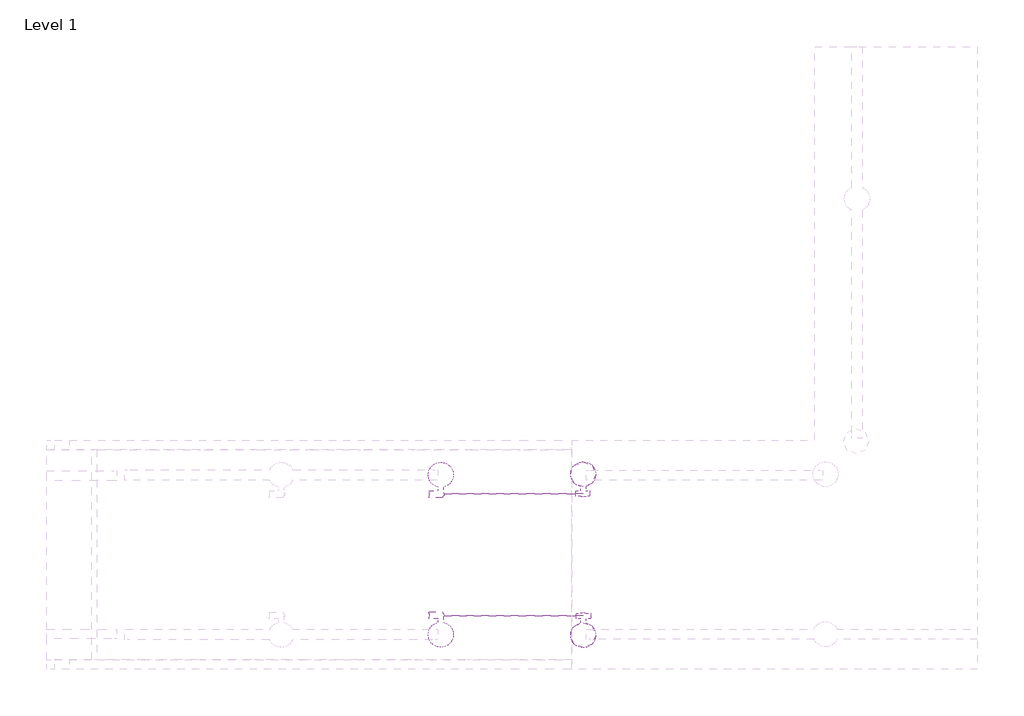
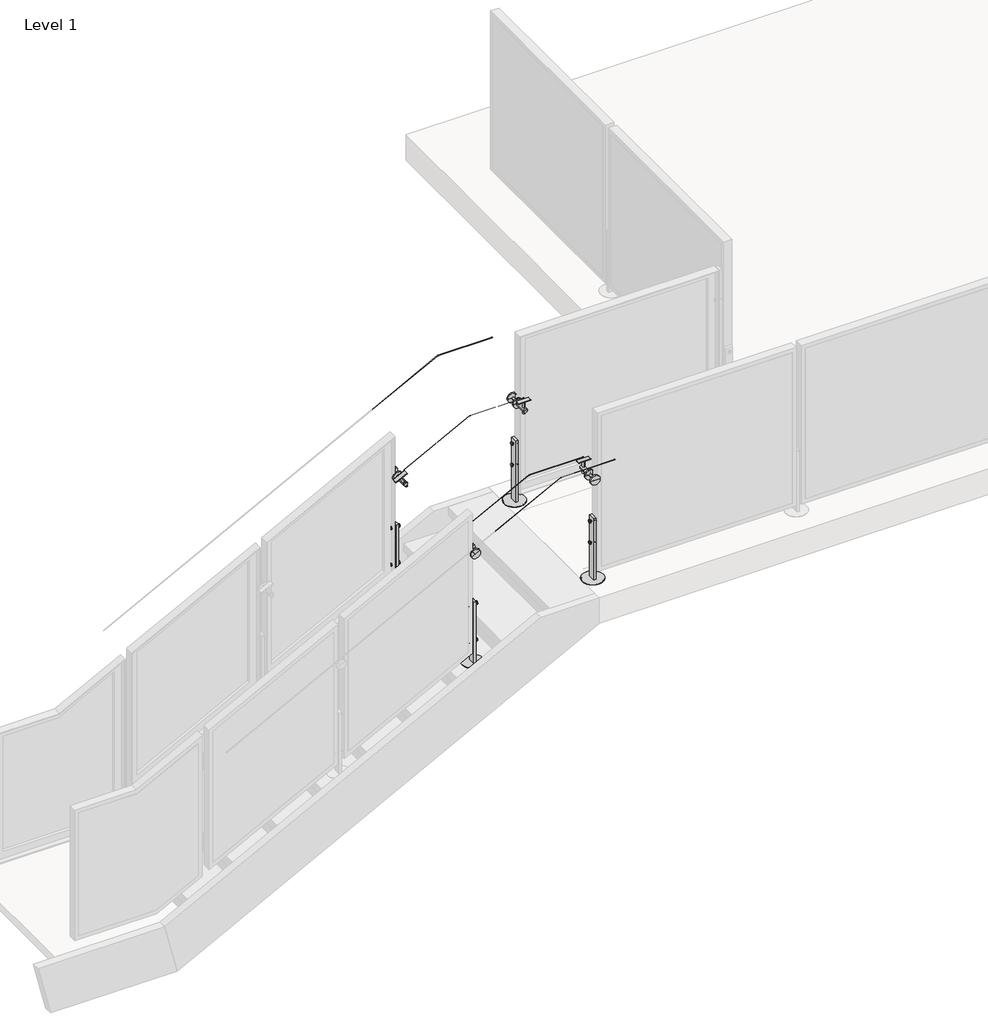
# One storey, part 34 of 37: 4 proxies, 2 railings.
"""IFC4 building model written with IfcOpenShell, lengths in millimetres."""

from ifc_helpers import new_model, si_unit, point, frame, frame_2d, origin, place, context, project, spatial, polyline, circle_curve, ellipse_curve, trimmed, segment, composite_curve, outline, extrude, transform, mapped, element, save
from ifc_brep_helpers import plane_surface, cylinder_surface, advanced_brep
from components import baluster_end_post_viva_frame_top_mount_933f940f, baluster_end_post_viva_frame_top_mount_stairs_5fb22de0

model = new_model("IFC4")

# Units and contexts
model_context = context("Model", 3, world=origin())
ifc_project = project(units=[si_unit("LENGTHUNIT", "METRE", prefix="MILLI")], contexts=[model_context])

# Site, building, storey
site = spatial("IfcSite", under=ifc_project)
building = spatial("IfcBuilding", under=site)
storey = spatial("IfcBuildingStorey", under=building, Name="Level 1", Elevation=0.0)

# Proxies
placement = place(None, origin())
baluster_end_post_viva_frame_top_mount_shape = baluster_end_post_viva_frame_top_mount_933f940f(model_context)
element("IfcBuildingElementProxy", 1, Name="Baluster-End-Post-VIVA-FRAME-Top Mount : CORED INTO CONCRETE_TOP MOUNT FOLD_STRAIGHT", ObjectType="Baluster-End-Post-VIVA-FRAME-Top Mount : CORED INTO CONCRETE_TOP MOUNT FOLD_STRAIGHT", at=placement, inside=storey, context=model_context, shape_type="MappedRepresentation", body=[
    mapped(baluster_end_post_viva_frame_top_mount_shape, transform((-7413.6813244, 8605.5937722, 3047.492), x_axis=(1.0, 0.0, 0.0), y_axis=(0.0, 1.0, 0.0), z_axis=(0.0, 0.0, 1.0))),
])
element("IfcBuildingElementProxy", 2, Name="Baluster-End-Post-VIVA-FRAME-Top Mount : CORED INTO CONCRETE_TOP MOUNT FOLD_STRAIGHT", ObjectType="Baluster-End-Post-VIVA-FRAME-Top Mount : CORED INTO CONCRETE_TOP MOUNT FOLD_STRAIGHT", at=placement, inside=storey, context=model_context, shape_type="MappedRepresentation", body=[
    mapped(baluster_end_post_viva_frame_top_mount_shape, transform((-7413.6813244, 9246.7937722, 3047.492), x_axis=(-1.0, 0.0, 0.0), y_axis=(0.0, -1.0, 0.0), z_axis=(0.0, 0.0, 1.0))),
])
baluster_end_post_viva_frame_top_mount_stairs_shape = baluster_end_post_viva_frame_top_mount_stairs_5fb22de0(model_context)
element("IfcBuildingElementProxy", 3, Name="Baluster-End-Post-VIVA-FRAME-Top Mount Stairs : CORED INTO CONCRETE_TOP MOUNT FRAME_STAIR", ObjectType="Baluster-End-Post-VIVA-FRAME-Top Mount Stairs : CORED INTO CONCRETE_TOP MOUNT FRAME_STAIR", at=placement, inside=storey, context=model_context, shape_type="MappedRepresentation", body=[
    mapped(baluster_end_post_viva_frame_top_mount_stairs_shape, transform((-7413.6813244, 8605.5937722, 3784.092), x_axis=(1.0, 0.0, 0.0), y_axis=(0.0, 1.0, 0.0), z_axis=(0.0, 0.0, 1.0))),
])
element("IfcBuildingElementProxy", 4, Name="Baluster-End-Post-VIVA-FRAME-Top Mount Stairs : CORED INTO CONCRETE_TOP MOUNT FRAME_STAIR", ObjectType="Baluster-End-Post-VIVA-FRAME-Top Mount Stairs : CORED INTO CONCRETE_TOP MOUNT FRAME_STAIR", at=placement, inside=storey, context=model_context, shape_type="MappedRepresentation", body=[
    mapped(baluster_end_post_viva_frame_top_mount_stairs_shape, transform((-7413.6813244, 9246.7913722, 3784.092), x_axis=(-1.0, 0.0, 0.0), y_axis=(0.0, -1.0, 0.0), z_axis=(0.0, 0.0, 1.0))),
])

# Railings
element("IfcRailing", 5, ObjectType="Metal-Panel-VIVA-FRAME-Top_Core-Stairs-Landing-Upper", at=placement, inside=storey, context=model_context, shape_type="SolidModel", body=[
    advanced_brep(
    [(-8159.4813244, 8605.3397722, 3573.1968892), (-8159.4813244, 8605.8477722, 3573.1968892), (-7753.0192861, 8605.3397722, 3784.346), (-7753.0192861, 8605.8477722, 3784.346), (-7413.6813244, 8605.3397722, 3784.346), (-7413.6813244, 8605.8477722, 3784.346)],
    [
        (0, 1, ellipse_curve(frame((-8159.4813244, 8605.5937722, 3573.1968892), z_axis=(-1.0, 0.0, 0.0), x_axis=(0.0, 0.0, -0.9999999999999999)), 0.2862277, 0.254)),
        (1, 0, ellipse_curve(frame((-8159.4813244, 8605.5937722, 3573.1968892), z_axis=(-1.0, 0.0, 0.0), x_axis=(0.0, 0.0, -0.9999999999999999)), 0.2862277, 0.254)),
        (0, 2),
        (2, 3, ellipse_curve(frame((-7753.0192861, 8605.5937722, 3784.346), z_axis=(-0.9714436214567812, 0.0, -0.2372705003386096), x_axis=(0.23727050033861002, 0.0, -0.9714436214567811)), 0.2614665, 0.254)),
        (3, 1),
        (3, 2, ellipse_curve(frame((-7753.0192861, 8605.5937722, 3784.346), z_axis=(-0.9714436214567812, 0.0, -0.2372705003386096), x_axis=(0.23727050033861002, 0.0, -0.9714436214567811)), 0.2614665, 0.254)),
        (4, 5, circle_curve(frame((-7413.6813244, 8605.5937722, 3784.346), z_axis=(1.0, 0.0, 0.0), x_axis=(0.0, 1.0, 0.0)), 0.254)),
        (5, 4, circle_curve(frame((-7413.6813244, 8605.5937722, 3784.346), z_axis=(1.0, 0.0, 0.0), x_axis=(0.0, 1.0, 0.0)), 0.254)),
        (2, 4),
        (5, 3),
    ],
    [
        plane_surface(frame((-8159.4813244, 8605.5937722, 3573.4831169), z_axis=(-1.0, 0.0, 0.0), x_axis=(0.0, 1.0, 0.0))),
        cylinder_surface(frame((-8159.364233, 8605.5937722, 3573.2577159), z_axis=(-0.8874054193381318, 0.0, -0.4609898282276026), x_axis=(0.0, 1.0, 0.0)), 0.254),
        plane_surface(frame((-7413.6813244, 8605.5937722, 3784.6), z_axis=(1.0, 0.0, 0.0), x_axis=(0.0, 1.0, 0.0))),
        cylinder_surface(frame((-7753.0813244, 8605.5937722, 3784.346), z_axis=(-1.0, 0.0, 0.0), x_axis=(0.0, 1.0, 0.0)), 0.254),
    ],
    [
        (0, [[1, 2]]),
        (1, [[-1, 3, 4, 5]]),
        (1, [[-2, -5, 6, -3]]),
        (2, [[7, 8]]),
        (3, [[-4, 9, -8, 10]]),
        (3, [[-6, -10, -7, -9]]),
    ],
),
    advanced_brep(
    [(-8159.4813244, 8263.5937722, 3763.4196766), (-8159.4813244, 8264.5937722, 3763.4196766), (-7752.9592018, 8263.5937722, 3974.6), (-7752.9592018, 8264.5937722, 3974.6), (-7413.6813244, 8263.5937722, 3974.6), (-7413.6813244, 8264.5937722, 3974.6)],
    [
        (0, 1, ellipse_curve(frame((-8159.4813244, 8264.0937722, 3763.4196766), z_axis=(-1.0, 0.0, 0.0), x_axis=(0.0, 0.0, -0.9999999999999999)), 0.5634403, 0.5)),
        (1, 0, ellipse_curve(frame((-8159.4813244, 8264.0937722, 3763.4196766), z_axis=(-1.0, 0.0, 0.0), x_axis=(0.0, 0.0, -0.9999999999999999)), 0.5634403, 0.5)),
        (0, 2),
        (2, 3, ellipse_curve(frame((-7752.9592018, 8264.0937722, 3974.6), z_axis=(-0.9714436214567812, 0.0, -0.2372705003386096), x_axis=(0.23727050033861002, 0.0, -0.9714436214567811)), 0.5146979, 0.5)),
        (3, 1),
        (3, 2, ellipse_curve(frame((-7752.9592018, 8264.0937722, 3974.6), z_axis=(-0.9714436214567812, 0.0, -0.2372705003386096), x_axis=(0.23727050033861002, 0.0, -0.9714436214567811)), 0.5146979, 0.5)),
        (4, 5, circle_curve(frame((-7413.6813244, 8264.0937722, 3974.6), z_axis=(1.0, 0.0, 0.0), x_axis=(0.0, 1.0, 0.0)), 0.5)),
        (5, 4, circle_curve(frame((-7413.6813244, 8264.0937722, 3974.6), z_axis=(1.0, 0.0, 0.0), x_axis=(0.0, 1.0, 0.0)), 0.5)),
        (2, 4),
        (5, 3),
    ],
    [
        plane_surface(frame((-8159.4813244, 8264.0937722, 3763.9831169), z_axis=(-1.0, 0.0, 0.0), x_axis=(0.0, 1.0, 0.0))),
        cylinder_surface(frame((-8159.2508295, 8264.0937722, 3763.5394142), z_axis=(-0.8874054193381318, 0.0, -0.4609898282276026), x_axis=(0.0, 1.0, 0.0)), 0.5),
        plane_surface(frame((-7413.6813244, 8264.0937722, 3975.1), z_axis=(1.0, 0.0, 0.0), x_axis=(0.0, 1.0, 0.0))),
        cylinder_surface(frame((-7753.0813244, 8264.0937722, 3974.6), z_axis=(-1.0, 0.0, 0.0), x_axis=(0.0, 1.0, 0.0)), 0.5),
    ],
    [
        (0, [[1, 2]]),
        (1, [[-1, 3, 4, 5]]),
        (1, [[-2, -5, 6, -3]]),
        (2, [[7, 8]]),
        (3, [[-4, 9, -8, 10]]),
        (3, [[-6, -10, -7, -9]]),
    ],
),
    extrude(outline(composite_curve([segment(polyline([(2.99974, 1e-07), (0.0, 0.0)]), True, "CONTINUOUS"), segment(trimmed(circle_curve(frame_2d((-19.0451471, 0.0)), 19.0451471), [point((0.0, 0.0))], [point((-23.6280664, 18.4855208))], True, "CARTESIAN"), True, "CONTINUOUS"), segment(polyline([(-23.6280664, 18.4855208), (-24.3499073, 21.397116)]), True, "CONTINUOUS"), segment(trimmed(circle_curve(frame_2d((-19.0451471, 0.0)), 22.0448871), [point((-24.3499073, 21.397116))], [point((2.99974, 1e-07))], False, "CARTESIAN"), True, "CONTINUOUS")], self_intersect=False)), frame((-8221.9690349, 8593.9719722, 3522.3349137), z_axis=(0.887405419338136, 0.0, 0.46098982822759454), x_axis=(0.284054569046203, -0.7876022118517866, -0.5468050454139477)), (0.0, 0.0, 1.0), 79.1184357),
    advanced_brep(
    [(-8147.0841468, 8608.9719722, 3463.9951499), (-8147.0841468, 8601.8282222, 3463.9951499), (-8147.0841468, 8616.1157222, 3463.9951499), (-8182.9433931, 8601.8282222, 3533.024199), (-8182.9433931, 8608.9719722, 3533.024199), (-8182.9433931, 8616.1157222, 3533.024199)],
    [
        (0, 1),
        (1, 2, circle_curve(frame((-8147.0841468, 8608.9719722, 3463.9951499), z_axis=(0.4609898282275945, 0.0, -0.887405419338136), x_axis=(0.0, 1.0, 0.0)), 7.14375)),
        (2, 0),
        (3, 4),
        (4, 5),
        (5, 3, circle_curve(frame((-8182.9433931, 8608.9719722, 3533.024199), z_axis=(-0.4609898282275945, 0.0, 0.887405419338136), x_axis=(0.0, 1.0, 0.0)), 7.14375)),
        (2, 1, circle_curve(frame((-8147.0841468, 8608.9719722, 3463.9951499), z_axis=(0.4609898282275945, 0.0, -0.887405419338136), x_axis=(0.0, 1.0, 0.0)), 7.14375)),
        (3, 5, circle_curve(frame((-8182.9433931, 8608.9719722, 3533.024199), z_axis=(-0.4609898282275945, 0.0, 0.887405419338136), x_axis=(0.0, 1.0, 0.0)), 7.14375)),
        (1, 3),
        (5, 2),
    ],
    [
        plane_surface(frame((-8147.0841468, 8608.9719722, 3463.9951499), z_axis=(0.4609898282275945, 0.0, -0.887405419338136), x_axis=(0.0, 1.0, 0.0))),
        plane_surface(frame((-8182.9433931, 8608.9719722, 3533.024199), z_axis=(-0.4609898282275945, 0.0, 0.887405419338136), x_axis=(0.0, 1.0, 0.0))),
        cylinder_surface(frame((-8030.1299469, 8608.9719722, 3238.8583152), z_axis=(0.4609898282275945, 0.0, -0.887405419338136), x_axis=(0.0, 1.0, 0.0)), 7.14375),
    ],
    [
        (0, [[1, 2, 3]]),
        (1, [[4, 5, 6]]),
        (0, [[-3, 7, -1]]),
        (1, [[-5, -4, 8]]),
        (2, [[9, -6, 10, -2]]),
        (2, [[-10, -8, -9, -7]]),
    ],
),
    advanced_brep(
    [(-8186.2476904, 8481.9719722, 3473.9551112), (-8165.1163488, 8481.9719722, 3484.9324315), (-8153.8463, 8481.9719722, 3490.7870023), (-8132.7149585, 8481.9719722, 3501.7643226), (-8186.2476904, 8474.0344722, 3473.9551112), (-8132.7149585, 8474.0344722, 3501.7643226), (-8186.2476904, 8540.7094722, 3473.9551112), (-8170.7513733, 8540.7094722, 3482.0051461), (-8148.2112756, 8540.7094722, 3493.7142877), (-8132.7149585, 8540.7094722, 3501.7643226), (-8186.2476904, 8532.7719722, 3473.9551112), (-8132.7149585, 8532.7719722, 3501.7643226), (-8159.4813244, 8474.0344722, 3487.8597169), (-8170.7513733, 8620.0844722, 3482.0051461), (-8159.4813244, 8620.0844722, 3487.8597169), (-8148.2112756, 8620.0844722, 3493.7142877), (-8165.1163488, 8532.7719722, 3484.9324315), (-8153.8463, 8532.7719722, 3490.7870023)],
    [
        (0, 1),
        (1, 2, circle_curve(frame((-8159.4813244, 8481.9719722, 3487.8597169), z_axis=(0.0, -1.0, 0.0), x_axis=(0.8874054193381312, 0.0, 0.4609898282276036)), 6.35)),
        (2, 3),
        (3, 0, circle_curve(frame((-8159.4813244, 8481.9719722, 3487.8597169), z_axis=(0.0, 1.0, 0.0), x_axis=(0.8874054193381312, 0.0, 0.4609898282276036)), 30.1625)),
        (4, 0),
        (3, 5),
        (5, 4, circle_curve(frame((-8159.4813244, 8474.0344722, 3487.8597169), z_axis=(0.0, 1.0, 0.0), x_axis=(0.8874054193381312, 0.0, 0.4609898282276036)), 30.1625)),
        (6, 7),
        (7, 8, circle_curve(frame((-8159.4813244, 8540.7094722, 3487.8597169), z_axis=(0.0, -1.0, 0.0), x_axis=(0.8874054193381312, 0.0, 0.4609898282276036)), 12.7)),
        (8, 9),
        (9, 6, circle_curve(frame((-8159.4813244, 8540.7094722, 3487.8597169), z_axis=(0.0, 1.0, 0.0), x_axis=(0.8874054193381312, 0.0, 0.4609898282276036)), 30.1625)),
        (10, 6),
        (9, 11),
        (11, 10, circle_curve(frame((-8159.4813244, 8532.7719722, 3487.8597169), z_axis=(0.0, 1.0, 0.0), x_axis=(0.8874054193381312, 0.0, 0.4609898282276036)), 30.1625)),
        (3, 0, circle_curve(frame((-8159.4813244, 8481.9719722, 3487.8597169), z_axis=(0.0, -1.0, 0.0), x_axis=(0.8874054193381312, 0.0, 0.4609898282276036)), 30.1625)),
        (4, 5, circle_curve(frame((-8159.4813244, 8474.0344722, 3487.8597169), z_axis=(0.0, 1.0, 0.0), x_axis=(0.8874054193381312, 0.0, 0.4609898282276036)), 30.1625)),
        (12, 4),
        (5, 12),
        (13, 14),
        (14, 15),
        (15, 13, circle_curve(frame((-8159.4813244, 8620.0844722, 3487.8597169), z_axis=(0.0, 1.0, 0.0), x_axis=(0.8874054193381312, 0.0, 0.4609898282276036)), 12.7)),
        (13, 15, circle_curve(frame((-8159.4813244, 8620.0844722, 3487.8597169), z_axis=(0.0, 1.0, 0.0), x_axis=(0.8874054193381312, 0.0, 0.4609898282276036)), 12.7)),
        (7, 13),
        (15, 8),
        (7, 8, circle_curve(frame((-8159.4813244, 8540.7094722, 3487.8597169), z_axis=(0.0, 1.0, 0.0), x_axis=(0.8874054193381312, 0.0, 0.4609898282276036)), 12.7)),
        (6, 9, circle_curve(frame((-8159.4813244, 8540.7094722, 3487.8597169), z_axis=(0.0, 1.0, 0.0), x_axis=(0.8874054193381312, 0.0, 0.4609898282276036)), 30.1625)),
        (10, 11, circle_curve(frame((-8159.4813244, 8532.7719722, 3487.8597169), z_axis=(0.0, 1.0, 0.0), x_axis=(0.8874054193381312, 0.0, 0.4609898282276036)), 30.1625)),
        (16, 10),
        (11, 17),
        (17, 16, circle_curve(frame((-8159.4813244, 8532.7719722, 3487.8597169), z_axis=(0.0, 1.0, 0.0), x_axis=(0.8874054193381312, 0.0, 0.4609898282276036)), 6.35)),
        (16, 17, circle_curve(frame((-8159.4813244, 8532.7719722, 3487.8597169), z_axis=(0.0, 1.0, 0.0), x_axis=(0.8874054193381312, 0.0, 0.4609898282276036)), 6.35)),
        (1, 16),
        (17, 2),
        (1, 2, circle_curve(frame((-8159.4813244, 8481.9719722, 3487.8597169), z_axis=(0.0, 1.0, 0.0), x_axis=(0.8874054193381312, 0.0, 0.4609898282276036)), 6.35)),
    ],
    [
        plane_surface(frame((-8159.4813244, 8481.9719722, 3487.8597169), z_axis=(0.0, 1.0, 0.0), x_axis=(0.8874054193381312, 0.0, 0.4609898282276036))),
        cylinder_surface(frame((-8159.4813244, 7008.7719722, 3487.8597169), z_axis=(0.0, -1.0, 0.0), x_axis=(0.8874054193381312, 0.0, 0.4609898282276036)), 30.1625),
        plane_surface(frame((-8159.4813244, 8540.7094722, 3487.8597169), z_axis=(0.0, 1.0, 0.0), x_axis=(0.8874054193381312, 0.0, 0.4609898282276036))),
        plane_surface(frame((-8159.4813244, 8474.0344722, 3487.8597169), z_axis=(0.0, -1.0, 0.0), x_axis=(0.8874054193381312, 0.0, 0.4609898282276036))),
        plane_surface(frame((-8159.4813244, 8620.0844722, 3487.8597169), z_axis=(0.0, 1.0, 0.0), x_axis=(0.8874054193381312, 0.0, 0.4609898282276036))),
        cylinder_surface(frame((-8159.4813244, 7008.7719722, 3487.8597169), z_axis=(0.0, -1.0, 0.0), x_axis=(0.8874054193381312, 0.0, 0.4609898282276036)), 12.7),
        plane_surface(frame((-8159.4813244, 8532.7719722, 3487.8597169), z_axis=(0.0, -1.0, 0.0), x_axis=(0.8874054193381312, 0.0, 0.4609898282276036))),
        cylinder_surface(frame((-8159.4813244, 7008.7719722, 3487.8597169), z_axis=(0.0, -1.0, 0.0), x_axis=(0.8874054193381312, 0.0, 0.4609898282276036)), 6.35),
    ],
    [
        (0, [[1, 2, 3, 4]]),
        (1, [[5, -4, 6, 7]]),
        (2, [[8, 9, 10, 11]]),
        (1, [[12, -11, 13, 14]]),
        (1, [[-6, 15, -5, 16]]),
        (3, [[17, -7, 18]]),
        (3, [[-18, -16, -17]]),
        (4, [[19, 20, 21]]),
        (4, [[-20, -19, 22]]),
        (5, [[23, -21, 24, -9]]),
        (5, [[-24, -22, -23, 25]]),
        (2, [[-10, -25, -8, 26]]),
        (1, [[-13, -26, -12, 27]]),
        (6, [[28, -14, 29, 30]]),
        (6, [[-29, -27, -28, 31]]),
        (7, [[32, -30, 33, -2]]),
        (7, [[-33, -31, -32, 34]]),
        (0, [[-3, -34, -1, -15]]),
    ],
),
    extrude(outline(composite_curve([segment(trimmed(circle_curve(frame_2d((-8159.4813244, 8507.3719722)), 65.8876), [point((-8159.4813244, 8441.4843722))], [point((-8159.4813244, 8573.2595722))], False, "CARTESIAN"), True, "CONTINUOUS"), segment(trimmed(circle_curve(frame_2d((-8159.4813244, 8507.3719722)), 65.8876), [point((-8159.4813244, 8573.2595722))], [point((-8159.4813244, 8441.4843722))], False, "CARTESIAN"), True, "CONTINUOUS")], self_intersect=False)), frame((0.0, 0.0, 2757.7142857), z_axis=(0.0, 0.0, 1.0), x_axis=(1.0, 0.0, 0.0)), (0.0, 0.0, 1.0), 2.9821299),
    advanced_brep(
    [(-8185.6687244, 8507.3719722, 2887.8638857), (-8185.6687244, 8507.3719722, 2906.9646857), (-8185.6687244, 8507.3719722, 2897.4142857), (-8180.8935244, 8507.3719722, 2887.8638857), (-8180.8935244, 8507.3719722, 2906.9646857), (-8180.8935244, 8507.3719722, 2892.6390857), (-8180.8935244, 8507.3719722, 2902.1894857), (-8138.0691244, 8507.3719722, 2892.6390857), (-8138.0691244, 8507.3719722, 2902.1894857), (-8138.0691244, 8507.3719722, 2887.8638857), (-8138.0691244, 8507.3719722, 2906.9646857), (-8133.2939244, 8507.3719722, 2887.8638857), (-8133.2939244, 8507.3719722, 2906.9646857), (-8133.2939244, 8507.3719722, 2897.4142857)],
    [
        (0, 1, circle_curve(frame((-8185.6687244, 8507.3719722, 2897.4142857), z_axis=(-1.0, 0.0, 0.0), x_axis=(0.0, 0.0, 1.0)), 9.5504)),
        (1, 2),
        (2, 0),
        (1, 0, circle_curve(frame((-8185.6687244, 8507.3719722, 2897.4142857), z_axis=(-1.0, 0.0, 0.0), x_axis=(0.0, 0.0, 1.0)), 9.5504)),
        (3, 4, circle_curve(frame((-8180.8935244, 8507.3719722, 2897.4142857), z_axis=(-1.0, 0.0, 0.0), x_axis=(0.0, 0.0, 1.0)), 9.5504)),
        (4, 1),
        (0, 3),
        (4, 3, circle_curve(frame((-8180.8935244, 8507.3719722, 2897.4142857), z_axis=(-1.0, 0.0, 0.0), x_axis=(0.0, 0.0, 1.0)), 9.5504)),
        (5, 6, circle_curve(frame((-8180.8935244, 8507.3719722, 2897.4142857), z_axis=(-1.0, 0.0, 0.0), x_axis=(0.0, 0.0, 1.0)), 4.7752)),
        (6, 4),
        (3, 5),
        (6, 5, circle_curve(frame((-8180.8935244, 8507.3719722, 2897.4142857), z_axis=(-1.0, 0.0, 0.0), x_axis=(0.0, 0.0, 1.0)), 4.7752)),
        (7, 8, circle_curve(frame((-8138.0691244, 8507.3719722, 2897.4142857), z_axis=(-1.0, 0.0, 0.0), x_axis=(0.0, 0.0, 1.0)), 4.7752)),
        (8, 6),
        (5, 7),
        (8, 7, circle_curve(frame((-8138.0691244, 8507.3719722, 2897.4142857), z_axis=(-1.0, 0.0, 0.0), x_axis=(0.0, 0.0, 1.0)), 4.7752)),
        (9, 10, circle_curve(frame((-8138.0691244, 8507.3719722, 2897.4142857), z_axis=(-1.0, 0.0, 0.0), x_axis=(0.0, 0.0, 1.0)), 9.5504)),
        (10, 8),
        (7, 9),
        (10, 9, circle_curve(frame((-8138.0691244, 8507.3719722, 2897.4142857), z_axis=(-1.0, 0.0, 0.0), x_axis=(0.0, 0.0, 1.0)), 9.5504)),
        (11, 12, circle_curve(frame((-8133.2939244, 8507.3719722, 2897.4142857), z_axis=(-1.0, 0.0, 0.0), x_axis=(0.0, 0.0, 1.0)), 9.5504)),
        (12, 10),
        (9, 11),
        (12, 11, circle_curve(frame((-8133.2939244, 8507.3719722, 2897.4142857), z_axis=(-1.0, 0.0, 0.0), x_axis=(0.0, 0.0, 1.0)), 9.5504)),
        (13, 12),
        (11, 13),
    ],
    [
        plane_surface(frame((-8185.6687244, 8507.3719722, 2897.4142857), z_axis=(-1.0, 0.0, 0.0), x_axis=(0.0, 0.0, 1.0))),
        cylinder_surface(frame((-11577.2490816, 8507.3719722, 2897.4142857), z_axis=(1.0, 0.0, 0.0), x_axis=(0.0, 0.0, 1.0)), 9.5504),
        plane_surface(frame((-8180.8935244, 8507.3719722, 2897.4142857), z_axis=(1.0, 0.0, 0.0), x_axis=(0.0, 0.0, 1.0))),
        cylinder_surface(frame((-11577.2490816, 8507.3719722, 2897.4142857), z_axis=(1.0, 0.0, 0.0), x_axis=(0.0, 0.0, 1.0)), 4.7752),
        plane_surface(frame((-8138.0691244, 8507.3719722, 2897.4142857), z_axis=(-1.0, 0.0, 0.0), x_axis=(0.0, 0.0, 1.0))),
        plane_surface(frame((-8133.2939244, 8507.3719722, 2897.4142857), z_axis=(1.0, 0.0, 0.0), x_axis=(0.0, 0.0, 1.0))),
    ],
    [
        (0, [[1, 2, 3]]),
        (0, [[4, -3, -2]]),
        (1, [[5, 6, -1, 7]]),
        (1, [[8, -7, -4, -6]]),
        (2, [[9, 10, -5, 11]]),
        (2, [[12, -11, -8, -10]]),
        (3, [[13, 14, -9, 15]]),
        (3, [[16, -15, -12, -14]]),
        (4, [[17, 18, -13, 19]]),
        (4, [[20, -19, -16, -18]]),
        (1, [[21, 22, -17, 23]]),
        (1, [[24, -23, -20, -22]]),
        (5, [[25, -21, 26]]),
        (5, [[-26, -24, -25]]),
    ],
),
    advanced_brep(
    [(-8185.6687244, 8507.3719722, 3129.1638857), (-8185.6687244, 8507.3719722, 3148.2646857), (-8185.6687244, 8507.3719722, 3138.7142857), (-8180.8935244, 8507.3719722, 3129.1638857), (-8180.8935244, 8507.3719722, 3148.2646857), (-8180.8935244, 8507.3719722, 3133.9390857), (-8180.8935244, 8507.3719722, 3143.4894857), (-8138.0691244, 8507.3719722, 3133.9390857), (-8138.0691244, 8507.3719722, 3143.4894857), (-8138.0691244, 8507.3719722, 3129.1638857), (-8138.0691244, 8507.3719722, 3148.2646857), (-8133.2939244, 8507.3719722, 3129.1638857), (-8133.2939244, 8507.3719722, 3148.2646857), (-8133.2939244, 8507.3719722, 3138.7142857)],
    [
        (0, 1, circle_curve(frame((-8185.6687244, 8507.3719722, 3138.7142857), z_axis=(-1.0, 0.0, 0.0), x_axis=(0.0, 0.0, 1.0)), 9.5504)),
        (1, 2),
        (2, 0),
        (1, 0, circle_curve(frame((-8185.6687244, 8507.3719722, 3138.7142857), z_axis=(-1.0, 0.0, 0.0), x_axis=(0.0, 0.0, 1.0)), 9.5504)),
        (3, 4, circle_curve(frame((-8180.8935244, 8507.3719722, 3138.7142857), z_axis=(-1.0, 0.0, 0.0), x_axis=(0.0, 0.0, 1.0)), 9.5504)),
        (4, 1),
        (0, 3),
        (4, 3, circle_curve(frame((-8180.8935244, 8507.3719722, 3138.7142857), z_axis=(-1.0, 0.0, 0.0), x_axis=(0.0, 0.0, 1.0)), 9.5504)),
        (5, 6, circle_curve(frame((-8180.8935244, 8507.3719722, 3138.7142857), z_axis=(-1.0, 0.0, 0.0), x_axis=(0.0, 0.0, 1.0)), 4.7752)),
        (6, 4),
        (3, 5),
        (6, 5, circle_curve(frame((-8180.8935244, 8507.3719722, 3138.7142857), z_axis=(-1.0, 0.0, 0.0), x_axis=(0.0, 0.0, 1.0)), 4.7752)),
        (7, 8, circle_curve(frame((-8138.0691244, 8507.3719722, 3138.7142857), z_axis=(-1.0, 0.0, 0.0), x_axis=(0.0, 0.0, 1.0)), 4.7752)),
        (8, 6),
        (5, 7),
        (8, 7, circle_curve(frame((-8138.0691244, 8507.3719722, 3138.7142857), z_axis=(-1.0, 0.0, 0.0), x_axis=(0.0, 0.0, 1.0)), 4.7752)),
        (9, 10, circle_curve(frame((-8138.0691244, 8507.3719722, 3138.7142857), z_axis=(-1.0, 0.0, 0.0), x_axis=(0.0, 0.0, 1.0)), 9.5504)),
        (10, 8),
        (7, 9),
        (10, 9, circle_curve(frame((-8138.0691244, 8507.3719722, 3138.7142857), z_axis=(-1.0, 0.0, 0.0), x_axis=(0.0, 0.0, 1.0)), 9.5504)),
        (11, 12, circle_curve(frame((-8133.2939244, 8507.3719722, 3138.7142857), z_axis=(-1.0, 0.0, 0.0), x_axis=(0.0, 0.0, 1.0)), 9.5504)),
        (12, 10),
        (9, 11),
        (12, 11, circle_curve(frame((-8133.2939244, 8507.3719722, 3138.7142857), z_axis=(-1.0, 0.0, 0.0), x_axis=(0.0, 0.0, 1.0)), 9.5504)),
        (13, 12),
        (11, 13),
    ],
    [
        plane_surface(frame((-8185.6687244, 8507.3719722, 3138.7142857), z_axis=(-1.0, 0.0, 0.0), x_axis=(0.0, 0.0, 1.0))),
        cylinder_surface(frame((-11577.2490816, 8507.3719722, 3138.7142857), z_axis=(1.0, 0.0, 0.0), x_axis=(0.0, 0.0, 1.0)), 9.5504),
        plane_surface(frame((-8180.8935244, 8507.3719722, 3138.7142857), z_axis=(1.0, 0.0, 0.0), x_axis=(0.0, 0.0, 1.0))),
        cylinder_surface(frame((-11577.2490816, 8507.3719722, 3138.7142857), z_axis=(1.0, 0.0, 0.0), x_axis=(0.0, 0.0, 1.0)), 4.7752),
        plane_surface(frame((-8138.0691244, 8507.3719722, 3138.7142857), z_axis=(-1.0, 0.0, 0.0), x_axis=(0.0, 0.0, 1.0))),
        plane_surface(frame((-8133.2939244, 8507.3719722, 3138.7142857), z_axis=(1.0, 0.0, 0.0), x_axis=(0.0, 0.0, 1.0))),
    ],
    [
        (0, [[1, 2, 3]]),
        (0, [[4, -3, -2]]),
        (1, [[5, 6, -1, 7]]),
        (1, [[8, -7, -4, -6]]),
        (2, [[9, 10, -5, 11]]),
        (2, [[12, -11, -8, -10]]),
        (3, [[13, 14, -9, 15]]),
        (3, [[16, -15, -12, -14]]),
        (4, [[17, 18, -13, 19]]),
        (4, [[20, -19, -16, -18]]),
        (1, [[21, 22, -17, 23]]),
        (1, [[24, -23, -20, -22]]),
        (5, [[25, -21, 26]]),
        (5, [[-26, -24, -25]]),
    ],
),
    extrude(outline(polyline([(-8167.4209161, 8529.5969722), (-8151.5417328, 8529.5969722), (-8151.5417328, 8485.1469722), (-8167.4209161, 8485.1469722), (-8167.4209161, 8529.5969722)])), frame((0.0, 0.0, 2656.1142857), z_axis=(0.0, 0.0, 1.0), x_axis=(1.0, 0.0, 0.0)), (0.0, 0.0, 1.0), 508.0),
])
element("IfcRailing", 6, ObjectType="Metal-Panel-VIVA-FRAME-Top_Core-Stairs-Landing-Upper", at=placement, inside=storey, context=model_context, shape_type="SolidModel", body=[
    advanced_brep(
    [(-8159.4813244, 9246.5373722, 3573.1968892), (-8159.4813244, 9247.0453722, 3573.1968892), (-7753.0192861, 9246.5373722, 3784.346), (-7753.0192861, 9247.0453722, 3784.346), (-7413.6813244, 9246.5373722, 3784.346), (-7413.6813244, 9247.0453722, 3784.346)],
    [
        (0, 1, ellipse_curve(frame((-8159.4813244, 9246.7913722, 3573.1968892), z_axis=(-1.0, 0.0, 0.0), x_axis=(0.0, 0.0, -0.9999999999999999)), 0.2862277, 0.254)),
        (1, 0, ellipse_curve(frame((-8159.4813244, 9246.7913722, 3573.1968892), z_axis=(-1.0, 0.0, 0.0), x_axis=(0.0, 0.0, -0.9999999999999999)), 0.2862277, 0.254)),
        (0, 2),
        (2, 3, ellipse_curve(frame((-7753.0192861, 9246.7913722, 3784.346), z_axis=(-0.9714436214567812, 0.0, -0.2372705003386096), x_axis=(0.23727050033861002, 0.0, -0.9714436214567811)), 0.2614665, 0.254)),
        (3, 1),
        (3, 2, ellipse_curve(frame((-7753.0192861, 9246.7913722, 3784.346), z_axis=(-0.9714436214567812, 0.0, -0.2372705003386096), x_axis=(0.23727050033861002, 0.0, -0.9714436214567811)), 0.2614665, 0.254)),
        (4, 5, circle_curve(frame((-7413.6813244, 9246.7913722, 3784.346), z_axis=(1.0, 0.0, 0.0), x_axis=(0.0, 1.0, 0.0)), 0.254)),
        (5, 4, circle_curve(frame((-7413.6813244, 9246.7913722, 3784.346), z_axis=(1.0, 0.0, 0.0), x_axis=(0.0, 1.0, 0.0)), 0.254)),
        (2, 4),
        (5, 3),
    ],
    [
        plane_surface(frame((-8159.4813244, 9246.7913722, 3573.4831169), z_axis=(-1.0, 0.0, 0.0), x_axis=(0.0, 1.0, 0.0))),
        cylinder_surface(frame((-8159.364233, 9246.7913722, 3573.2577159), z_axis=(-0.8874054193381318, 0.0, -0.4609898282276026), x_axis=(0.0, 1.0, 0.0)), 0.254),
        plane_surface(frame((-7413.6813244, 9246.7913722, 3784.6), z_axis=(1.0, 0.0, 0.0), x_axis=(0.0, 1.0, 0.0))),
        cylinder_surface(frame((-7753.0813244, 9246.7913722, 3784.346), z_axis=(-1.0, 0.0, 0.0), x_axis=(0.0, 1.0, 0.0)), 0.254),
    ],
    [
        (0, [[1, 2]]),
        (1, [[-1, 3, 4, 5]]),
        (1, [[-2, -5, 6, -3]]),
        (2, [[7, 8]]),
        (3, [[-4, 9, -8, 10]]),
        (3, [[-6, -10, -7, -9]]),
    ],
),
    advanced_brep(
    [(-8159.4813244, 9587.7913722, 3763.4196766), (-8159.4813244, 9588.7913722, 3763.4196766), (-7752.9592018, 9587.7913722, 3974.6), (-7752.9592018, 9588.7913722, 3974.6), (-7413.6813244, 9587.7913722, 3974.6), (-7413.6813244, 9588.7913722, 3974.6)],
    [
        (0, 1, ellipse_curve(frame((-8159.4813244, 9588.2913722, 3763.4196766), z_axis=(-1.0, 0.0, 0.0), x_axis=(0.0, 0.0, -0.9999999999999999)), 0.5634403, 0.5)),
        (1, 0, ellipse_curve(frame((-8159.4813244, 9588.2913722, 3763.4196766), z_axis=(-1.0, 0.0, 0.0), x_axis=(0.0, 0.0, -0.9999999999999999)), 0.5634403, 0.5)),
        (0, 2),
        (2, 3, ellipse_curve(frame((-7752.9592018, 9588.2913722, 3974.6), z_axis=(-0.9714436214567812, 0.0, -0.2372705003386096), x_axis=(0.23727050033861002, 0.0, -0.9714436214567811)), 0.5146979, 0.5)),
        (3, 1),
        (3, 2, ellipse_curve(frame((-7752.9592018, 9588.2913722, 3974.6), z_axis=(-0.9714436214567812, 0.0, -0.2372705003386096), x_axis=(0.23727050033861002, 0.0, -0.9714436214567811)), 0.5146979, 0.5)),
        (4, 5, circle_curve(frame((-7413.6813244, 9588.2913722, 3974.6), z_axis=(1.0, 0.0, 0.0), x_axis=(0.0, 1.0, 0.0)), 0.5)),
        (5, 4, circle_curve(frame((-7413.6813244, 9588.2913722, 3974.6), z_axis=(1.0, 0.0, 0.0), x_axis=(0.0, 1.0, 0.0)), 0.5)),
        (2, 4),
        (5, 3),
    ],
    [
        plane_surface(frame((-8159.4813244, 9588.2913722, 3763.9831169), z_axis=(-1.0, 0.0, 0.0), x_axis=(0.0, 1.0, 0.0))),
        cylinder_surface(frame((-8159.2508295, 9588.2913722, 3763.5394142), z_axis=(-0.8874054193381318, 0.0, -0.4609898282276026), x_axis=(0.0, 1.0, 0.0)), 0.5),
        plane_surface(frame((-7413.6813244, 9588.2913722, 3975.1), z_axis=(1.0, 0.0, 0.0), x_axis=(0.0, 1.0, 0.0))),
        cylinder_surface(frame((-7753.0813244, 9588.2913722, 3974.6), z_axis=(-1.0, 0.0, 0.0), x_axis=(0.0, 1.0, 0.0)), 0.5),
    ],
    [
        (0, [[1, 2]]),
        (1, [[-1, 3, 4, 5]]),
        (1, [[-2, -5, 6, -3]]),
        (2, [[7, 8]]),
        (3, [[-4, 9, -8, 10]]),
        (3, [[-6, -10, -7, -9]]),
    ],
),
    extrude(outline(composite_curve([segment(trimmed(circle_curve(frame_2d((-19.0451471, 0.0)), 22.0448871), [point((2.9997401, 0.0))], [point((-24.3499072, -21.3971159))], False, "CARTESIAN"), True, "CONTINUOUS"), segment(polyline([(-24.3499072, -21.3971159), (-23.6280664, -18.4855208)]), True, "CONTINUOUS"), segment(trimmed(circle_curve(frame_2d((-19.0451471, 0.0)), 19.0451471), [point((-23.6280664, -18.4855208))], [point((0.0, 0.0))], True, "CARTESIAN"), True, "CONTINUOUS"), segment(polyline([(0.0, 0.0), (2.9997401, 0.0)]), True, "CONTINUOUS")], self_intersect=False)), frame((-8221.9690349, 9258.4131722, 3522.3349137), z_axis=(0.887405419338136, 0.0, 0.46098982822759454), x_axis=(0.2840545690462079, 0.7876022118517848, -0.5468050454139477)), (0.0, 0.0, 1.0), 79.1184357),
    advanced_brep(
    [(-8147.0841468, 9243.4131722, 3463.9951499), (-8147.0841468, 9236.2694222, 3463.9951499), (-8147.0841468, 9250.5569222, 3463.9951499), (-8182.9433931, 9250.5569222, 3533.024199), (-8182.9433931, 9236.2694222, 3533.024199), (-8182.9433931, 9243.4131722, 3533.024199)],
    [
        (0, 1),
        (1, 2, circle_curve(frame((-8147.0841468, 9243.4131722, 3463.9951499), z_axis=(0.4609898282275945, 0.0, -0.887405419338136), x_axis=(0.0, -1.0, 0.0)), 7.14375)),
        (2, 0),
        (3, 4, circle_curve(frame((-8182.9433931, 9243.4131722, 3533.024199), z_axis=(-0.4609898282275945, 0.0, 0.887405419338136), x_axis=(0.0, -1.0, 0.0)), 7.14375)),
        (4, 5),
        (5, 3),
        (2, 1, circle_curve(frame((-8147.0841468, 9243.4131722, 3463.9951499), z_axis=(0.4609898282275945, 0.0, -0.887405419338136), x_axis=(0.0, -1.0, 0.0)), 7.14375)),
        (4, 3, circle_curve(frame((-8182.9433931, 9243.4131722, 3533.024199), z_axis=(-0.4609898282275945, 0.0, 0.887405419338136), x_axis=(0.0, -1.0, 0.0)), 7.14375)),
        (1, 4),
        (3, 2),
    ],
    [
        plane_surface(frame((-8147.0841468, 9243.4131722, 3463.9951499), z_axis=(0.4609898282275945, 0.0, -0.887405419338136), x_axis=(0.0, -1.0, 0.0))),
        plane_surface(frame((-8182.9433931, 9243.4131722, 3533.024199), z_axis=(-0.4609898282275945, 0.0, 0.887405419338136), x_axis=(0.0, -1.0, 0.0))),
        cylinder_surface(frame((-8030.1299469, 9243.4131722, 3238.8583152), z_axis=(0.4609898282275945, 0.0, -0.887405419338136), x_axis=(0.0, -1.0, 0.0)), 7.14375),
    ],
    [
        (0, [[1, 2, 3]]),
        (1, [[4, 5, 6]]),
        (0, [[-3, 7, -1]]),
        (1, [[8, -6, -5]]),
        (2, [[-2, 9, -4, 10]]),
        (2, [[-7, -10, -8, -9]]),
    ],
),
    advanced_brep(
    [(-8186.2476904, 9370.4131722, 3473.9551112), (-8132.7149585, 9370.4131722, 3501.7643226), (-8153.8463, 9370.4131722, 3490.7870023), (-8165.1163488, 9370.4131722, 3484.9324315), (-8186.2476904, 9378.3506722, 3473.9551112), (-8132.7149585, 9378.3506722, 3501.7643226), (-8186.2476904, 9311.6756722, 3473.9551112), (-8132.7149585, 9311.6756722, 3501.7643226), (-8148.2112756, 9311.6756722, 3493.7142877), (-8170.7513733, 9311.6756722, 3482.0051461), (-8186.2476904, 9319.6131722, 3473.9551112), (-8132.7149585, 9319.6131722, 3501.7643226), (-8159.4813244, 9378.3506722, 3487.8597169), (-8170.7513733, 9232.3006722, 3482.0051461), (-8148.2112756, 9232.3006722, 3493.7142877), (-8159.4813244, 9232.3006722, 3487.8597169), (-8165.1163488, 9319.6131722, 3484.9324315), (-8153.8463, 9319.6131722, 3490.7870023)],
    [
        (0, 1, circle_curve(frame((-8159.4813244, 9370.4131722, 3487.8597169), z_axis=(0.0, -1.0, 0.0), x_axis=(0.8874054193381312, 0.0, 0.4609898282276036)), 30.1625)),
        (1, 2),
        (2, 3, circle_curve(frame((-8159.4813244, 9370.4131722, 3487.8597169), z_axis=(0.0, 1.0, 0.0), x_axis=(0.8874054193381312, 0.0, 0.4609898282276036)), 6.35)),
        (3, 0),
        (4, 5, circle_curve(frame((-8159.4813244, 9378.3506722, 3487.8597169), z_axis=(0.0, -1.0, 0.0), x_axis=(0.8874054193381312, 0.0, 0.4609898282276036)), 30.1625)),
        (5, 1),
        (0, 4),
        (6, 7, circle_curve(frame((-8159.4813244, 9311.6756722, 3487.8597169), z_axis=(0.0, -1.0, 0.0), x_axis=(0.8874054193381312, 0.0, 0.4609898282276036)), 30.1625)),
        (7, 8),
        (8, 9, circle_curve(frame((-8159.4813244, 9311.6756722, 3487.8597169), z_axis=(0.0, 1.0, 0.0), x_axis=(0.8874054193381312, 0.0, 0.4609898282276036)), 12.7)),
        (9, 6),
        (10, 11, circle_curve(frame((-8159.4813244, 9319.6131722, 3487.8597169), z_axis=(0.0, -1.0, 0.0), x_axis=(0.8874054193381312, 0.0, 0.4609898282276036)), 30.1625)),
        (11, 7),
        (6, 10),
        (5, 4, circle_curve(frame((-8159.4813244, 9378.3506722, 3487.8597169), z_axis=(0.0, -1.0, 0.0), x_axis=(0.8874054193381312, 0.0, 0.4609898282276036)), 30.1625)),
        (0, 1, circle_curve(frame((-8159.4813244, 9370.4131722, 3487.8597169), z_axis=(0.0, 1.0, 0.0), x_axis=(0.8874054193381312, 0.0, 0.4609898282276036)), 30.1625)),
        (12, 5),
        (4, 12),
        (13, 14, circle_curve(frame((-8159.4813244, 9232.3006722, 3487.8597169), z_axis=(0.0, -1.0, 0.0), x_axis=(0.8874054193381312, 0.0, 0.4609898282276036)), 12.7)),
        (14, 15),
        (15, 13),
        (14, 13, circle_curve(frame((-8159.4813244, 9232.3006722, 3487.8597169), z_axis=(0.0, -1.0, 0.0), x_axis=(0.8874054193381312, 0.0, 0.4609898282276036)), 12.7)),
        (8, 14),
        (13, 9),
        (8, 9, circle_curve(frame((-8159.4813244, 9311.6756722, 3487.8597169), z_axis=(0.0, -1.0, 0.0), x_axis=(0.8874054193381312, 0.0, 0.4609898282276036)), 12.7)),
        (7, 6, circle_curve(frame((-8159.4813244, 9311.6756722, 3487.8597169), z_axis=(0.0, -1.0, 0.0), x_axis=(0.8874054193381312, 0.0, 0.4609898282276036)), 30.1625)),
        (11, 10, circle_curve(frame((-8159.4813244, 9319.6131722, 3487.8597169), z_axis=(0.0, -1.0, 0.0), x_axis=(0.8874054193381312, 0.0, 0.4609898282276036)), 30.1625)),
        (16, 17, circle_curve(frame((-8159.4813244, 9319.6131722, 3487.8597169), z_axis=(0.0, -1.0, 0.0), x_axis=(0.8874054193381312, 0.0, 0.4609898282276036)), 6.35)),
        (17, 11),
        (10, 16),
        (17, 16, circle_curve(frame((-8159.4813244, 9319.6131722, 3487.8597169), z_axis=(0.0, -1.0, 0.0), x_axis=(0.8874054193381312, 0.0, 0.4609898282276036)), 6.35)),
        (2, 17),
        (16, 3),
        (2, 3, circle_curve(frame((-8159.4813244, 9370.4131722, 3487.8597169), z_axis=(0.0, -1.0, 0.0), x_axis=(0.8874054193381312, 0.0, 0.4609898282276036)), 6.35)),
    ],
    [
        plane_surface(frame((-8159.4813244, 9370.4131722, 3487.8597169), z_axis=(0.0, -1.0, 0.0), x_axis=(0.8874054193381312, 0.0, 0.4609898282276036))),
        cylinder_surface(frame((-8159.4813244, 10843.6131722, 3487.8597169), z_axis=(0.0, 1.0, 0.0), x_axis=(0.8874054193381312, 0.0, 0.4609898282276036)), 30.1625),
        plane_surface(frame((-8159.4813244, 9311.6756722, 3487.8597169), z_axis=(0.0, -1.0, 0.0), x_axis=(0.8874054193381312, 0.0, 0.4609898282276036))),
        plane_surface(frame((-8159.4813244, 9378.3506722, 3487.8597169), z_axis=(0.0, 1.0, 0.0), x_axis=(0.8874054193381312, 0.0, 0.4609898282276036))),
        plane_surface(frame((-8159.4813244, 9232.3006722, 3487.8597169), z_axis=(0.0, -1.0, 0.0), x_axis=(0.8874054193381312, 0.0, 0.4609898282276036))),
        cylinder_surface(frame((-8159.4813244, 10843.6131722, 3487.8597169), z_axis=(0.0, 1.0, 0.0), x_axis=(0.8874054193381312, 0.0, 0.4609898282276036)), 12.7),
        plane_surface(frame((-8159.4813244, 9319.6131722, 3487.8597169), z_axis=(0.0, 1.0, 0.0), x_axis=(0.8874054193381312, 0.0, 0.4609898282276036))),
        cylinder_surface(frame((-8159.4813244, 10843.6131722, 3487.8597169), z_axis=(0.0, 1.0, 0.0), x_axis=(0.8874054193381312, 0.0, 0.4609898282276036)), 6.35),
    ],
    [
        (0, [[1, 2, 3, 4]]),
        (1, [[5, 6, -1, 7]]),
        (2, [[8, 9, 10, 11]]),
        (1, [[12, 13, -8, 14]]),
        (1, [[15, -7, 16, -6]]),
        (3, [[17, -5, 18]]),
        (3, [[-18, -15, -17]]),
        (4, [[19, 20, 21]]),
        (4, [[22, -21, -20]]),
        (5, [[-10, 23, -19, 24]]),
        (5, [[25, -24, -22, -23]]),
        (2, [[26, -11, -25, -9]]),
        (1, [[27, -14, -26, -13]]),
        (6, [[28, 29, -12, 30]]),
        (6, [[31, -30, -27, -29]]),
        (7, [[-3, 32, -28, 33]]),
        (7, [[34, -33, -31, -32]]),
        (0, [[-16, -4, -34, -2]]),
    ],
),
    extrude(outline(composite_curve([segment(trimmed(circle_curve(frame_2d((-8159.4813244, 9345.0131722)), 65.8876), [point((-8159.4813244, 9410.9007722))], [point((-8159.4813244, 9279.1255722))], False, "CARTESIAN"), True, "CONTINUOUS"), segment(trimmed(circle_curve(frame_2d((-8159.4813244, 9345.0131722)), 65.8876), [point((-8159.4813244, 9279.1255722))], [point((-8159.4813244, 9410.9007722))], False, "CARTESIAN"), True, "CONTINUOUS")], self_intersect=False)), frame((0.0, 0.0, 2757.7142857), z_axis=(0.0, 0.0, 1.0), x_axis=(1.0, 0.0, 0.0)), (0.0, 0.0, 1.0), 2.9821299),
    advanced_brep(
    [(-8185.6687244, 9345.0131722, 2887.8638857), (-8185.6687244, 9345.0131722, 2897.4142857), (-8185.6687244, 9345.0131722, 2906.9646857), (-8180.8935244, 9345.0131722, 2887.8638857), (-8180.8935244, 9345.0131722, 2906.9646857), (-8180.8935244, 9345.0131722, 2892.6390857), (-8180.8935244, 9345.0131722, 2902.1894857), (-8138.0691244, 9345.0131722, 2892.6390857), (-8138.0691244, 9345.0131722, 2902.1894857), (-8138.0691244, 9345.0131722, 2887.8638857), (-8138.0691244, 9345.0131722, 2906.9646857), (-8133.2939244, 9345.0131722, 2887.8638857), (-8133.2939244, 9345.0131722, 2906.9646857), (-8133.2939244, 9345.0131722, 2897.4142857)],
    [
        (0, 1),
        (1, 2),
        (2, 0, circle_curve(frame((-8185.6687244, 9345.0131722, 2897.4142857), z_axis=(-1.0, 0.0, 0.0), x_axis=(0.0, 0.0, 1.0)), 9.5504)),
        (0, 2, circle_curve(frame((-8185.6687244, 9345.0131722, 2897.4142857), z_axis=(-1.0, 0.0, 0.0), x_axis=(0.0, 0.0, 1.0)), 9.5504)),
        (3, 0),
        (2, 4),
        (4, 3, circle_curve(frame((-8180.8935244, 9345.0131722, 2897.4142857), z_axis=(-1.0, 0.0, 0.0), x_axis=(0.0, 0.0, 1.0)), 9.5504)),
        (3, 4, circle_curve(frame((-8180.8935244, 9345.0131722, 2897.4142857), z_axis=(-1.0, 0.0, 0.0), x_axis=(0.0, 0.0, 1.0)), 9.5504)),
        (5, 3),
        (4, 6),
        (6, 5, circle_curve(frame((-8180.8935244, 9345.0131722, 2897.4142857), z_axis=(-1.0, 0.0, 0.0), x_axis=(0.0, 0.0, 1.0)), 4.7752)),
        (5, 6, circle_curve(frame((-8180.8935244, 9345.0131722, 2897.4142857), z_axis=(-1.0, 0.0, 0.0), x_axis=(0.0, 0.0, 1.0)), 4.7752)),
        (7, 5),
        (6, 8),
        (8, 7, circle_curve(frame((-8138.0691244, 9345.0131722, 2897.4142857), z_axis=(-1.0, 0.0, 0.0), x_axis=(0.0, 0.0, 1.0)), 4.7752)),
        (7, 8, circle_curve(frame((-8138.0691244, 9345.0131722, 2897.4142857), z_axis=(-1.0, 0.0, 0.0), x_axis=(0.0, 0.0, 1.0)), 4.7752)),
        (9, 7),
        (8, 10),
        (10, 9, circle_curve(frame((-8138.0691244, 9345.0131722, 2897.4142857), z_axis=(-1.0, 0.0, 0.0), x_axis=(0.0, 0.0, 1.0)), 9.5504)),
        (9, 10, circle_curve(frame((-8138.0691244, 9345.0131722, 2897.4142857), z_axis=(-1.0, 0.0, 0.0), x_axis=(0.0, 0.0, 1.0)), 9.5504)),
        (11, 9),
        (10, 12),
        (12, 11, circle_curve(frame((-8133.2939244, 9345.0131722, 2897.4142857), z_axis=(-1.0, 0.0, 0.0), x_axis=(0.0, 0.0, 1.0)), 9.5504)),
        (11, 12, circle_curve(frame((-8133.2939244, 9345.0131722, 2897.4142857), z_axis=(-1.0, 0.0, 0.0), x_axis=(0.0, 0.0, 1.0)), 9.5504)),
        (13, 11),
        (12, 13),
    ],
    [
        plane_surface(frame((-8185.6687244, 9345.0131722, 2897.4142857), z_axis=(-1.0, 0.0, 0.0), x_axis=(0.0, 0.0, 1.0))),
        cylinder_surface(frame((-11577.2490816, 9345.0131722, 2897.4142857), z_axis=(1.0, 0.0, 0.0), x_axis=(0.0, 0.0, 1.0)), 9.5504),
        plane_surface(frame((-8180.8935244, 9345.0131722, 2897.4142857), z_axis=(1.0, 0.0, 0.0), x_axis=(0.0, 0.0, 1.0))),
        cylinder_surface(frame((-11577.2490816, 9345.0131722, 2897.4142857), z_axis=(1.0, 0.0, 0.0), x_axis=(0.0, 0.0, 1.0)), 4.7752),
        plane_surface(frame((-8138.0691244, 9345.0131722, 2897.4142857), z_axis=(-1.0, 0.0, 0.0), x_axis=(0.0, 0.0, 1.0))),
        plane_surface(frame((-8133.2939244, 9345.0131722, 2897.4142857), z_axis=(1.0, 0.0, 0.0), x_axis=(0.0, 0.0, 1.0))),
    ],
    [
        (0, [[1, 2, 3]]),
        (0, [[-2, -1, 4]]),
        (1, [[5, -3, 6, 7]]),
        (1, [[-6, -4, -5, 8]]),
        (2, [[9, -7, 10, 11]]),
        (2, [[-10, -8, -9, 12]]),
        (3, [[13, -11, 14, 15]]),
        (3, [[-14, -12, -13, 16]]),
        (4, [[17, -15, 18, 19]]),
        (4, [[-18, -16, -17, 20]]),
        (1, [[21, -19, 22, 23]]),
        (1, [[-22, -20, -21, 24]]),
        (5, [[25, -23, 26]]),
        (5, [[-26, -24, -25]]),
    ],
),
    advanced_brep(
    [(-8185.6687244, 9345.0131722, 3129.1638857), (-8185.6687244, 9345.0131722, 3138.7142857), (-8185.6687244, 9345.0131722, 3148.2646857), (-8180.8935244, 9345.0131722, 3129.1638857), (-8180.8935244, 9345.0131722, 3148.2646857), (-8180.8935244, 9345.0131722, 3133.9390857), (-8180.8935244, 9345.0131722, 3143.4894857), (-8138.0691244, 9345.0131722, 3133.9390857), (-8138.0691244, 9345.0131722, 3143.4894857), (-8138.0691244, 9345.0131722, 3129.1638857), (-8138.0691244, 9345.0131722, 3148.2646857), (-8133.2939244, 9345.0131722, 3129.1638857), (-8133.2939244, 9345.0131722, 3148.2646857), (-8133.2939244, 9345.0131722, 3138.7142857)],
    [
        (0, 1),
        (1, 2),
        (2, 0, circle_curve(frame((-8185.6687244, 9345.0131722, 3138.7142857), z_axis=(-1.0, 0.0, 0.0), x_axis=(0.0, 0.0, 1.0)), 9.5504)),
        (0, 2, circle_curve(frame((-8185.6687244, 9345.0131722, 3138.7142857), z_axis=(-1.0, 0.0, 0.0), x_axis=(0.0, 0.0, 1.0)), 9.5504)),
        (3, 0),
        (2, 4),
        (4, 3, circle_curve(frame((-8180.8935244, 9345.0131722, 3138.7142857), z_axis=(-1.0, 0.0, 0.0), x_axis=(0.0, 0.0, 1.0)), 9.5504)),
        (3, 4, circle_curve(frame((-8180.8935244, 9345.0131722, 3138.7142857), z_axis=(-1.0, 0.0, 0.0), x_axis=(0.0, 0.0, 1.0)), 9.5504)),
        (5, 3),
        (4, 6),
        (6, 5, circle_curve(frame((-8180.8935244, 9345.0131722, 3138.7142857), z_axis=(-1.0, 0.0, 0.0), x_axis=(0.0, 0.0, 1.0)), 4.7752)),
        (5, 6, circle_curve(frame((-8180.8935244, 9345.0131722, 3138.7142857), z_axis=(-1.0, 0.0, 0.0), x_axis=(0.0, 0.0, 1.0)), 4.7752)),
        (7, 5),
        (6, 8),
        (8, 7, circle_curve(frame((-8138.0691244, 9345.0131722, 3138.7142857), z_axis=(-1.0, 0.0, 0.0), x_axis=(0.0, 0.0, 1.0)), 4.7752)),
        (7, 8, circle_curve(frame((-8138.0691244, 9345.0131722, 3138.7142857), z_axis=(-1.0, 0.0, 0.0), x_axis=(0.0, 0.0, 1.0)), 4.7752)),
        (9, 7),
        (8, 10),
        (10, 9, circle_curve(frame((-8138.0691244, 9345.0131722, 3138.7142857), z_axis=(-1.0, 0.0, 0.0), x_axis=(0.0, 0.0, 1.0)), 9.5504)),
        (9, 10, circle_curve(frame((-8138.0691244, 9345.0131722, 3138.7142857), z_axis=(-1.0, 0.0, 0.0), x_axis=(0.0, 0.0, 1.0)), 9.5504)),
        (11, 9),
        (10, 12),
        (12, 11, circle_curve(frame((-8133.2939244, 9345.0131722, 3138.7142857), z_axis=(-1.0, 0.0, 0.0), x_axis=(0.0, 0.0, 1.0)), 9.5504)),
        (11, 12, circle_curve(frame((-8133.2939244, 9345.0131722, 3138.7142857), z_axis=(-1.0, 0.0, 0.0), x_axis=(0.0, 0.0, 1.0)), 9.5504)),
        (13, 11),
        (12, 13),
    ],
    [
        plane_surface(frame((-8185.6687244, 9345.0131722, 3138.7142857), z_axis=(-1.0, 0.0, 0.0), x_axis=(0.0, 0.0, 1.0))),
        cylinder_surface(frame((-11577.2490816, 9345.0131722, 3138.7142857), z_axis=(1.0, 0.0, 0.0), x_axis=(0.0, 0.0, 1.0)), 9.5504),
        plane_surface(frame((-8180.8935244, 9345.0131722, 3138.7142857), z_axis=(1.0, 0.0, 0.0), x_axis=(0.0, 0.0, 1.0))),
        cylinder_surface(frame((-11577.2490816, 9345.0131722, 3138.7142857), z_axis=(1.0, 0.0, 0.0), x_axis=(0.0, 0.0, 1.0)), 4.7752),
        plane_surface(frame((-8138.0691244, 9345.0131722, 3138.7142857), z_axis=(-1.0, 0.0, 0.0), x_axis=(0.0, 0.0, 1.0))),
        plane_surface(frame((-8133.2939244, 9345.0131722, 3138.7142857), z_axis=(1.0, 0.0, 0.0), x_axis=(0.0, 0.0, 1.0))),
    ],
    [
        (0, [[1, 2, 3]]),
        (0, [[-2, -1, 4]]),
        (1, [[5, -3, 6, 7]]),
        (1, [[-6, -4, -5, 8]]),
        (2, [[9, -7, 10, 11]]),
        (2, [[-10, -8, -9, 12]]),
        (3, [[13, -11, 14, 15]]),
        (3, [[-14, -12, -13, 16]]),
        (4, [[17, -15, 18, 19]]),
        (4, [[-18, -16, -17, 20]]),
        (1, [[21, -19, 22, 23]]),
        (1, [[-22, -20, -21, 24]]),
        (5, [[25, -23, 26]]),
        (5, [[-26, -24, -25]]),
    ],
),
    extrude(outline(polyline([(-8167.4209161, 9322.7881722), (-8167.4209161, 9367.2381722), (-8151.5417328, 9367.2381722), (-8151.5417328, 9322.7881722), (-8167.4209161, 9322.7881722)])), frame((0.0, 0.0, 2656.1142857), z_axis=(0.0, 0.0, 1.0), x_axis=(1.0, 0.0, 0.0)), (0.0, 0.0, 1.0), 508.0),
])

save(model, "model.ifc")
